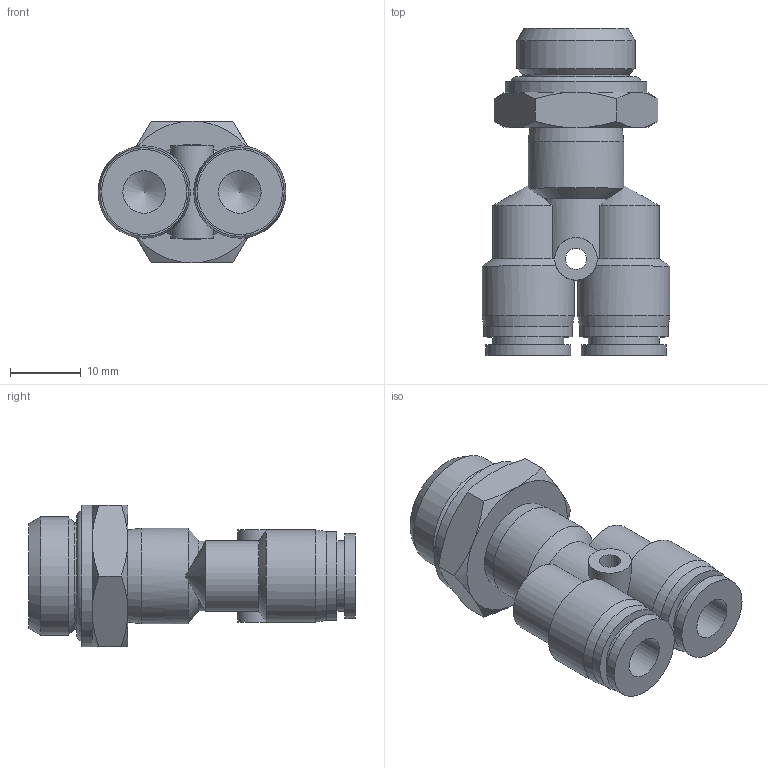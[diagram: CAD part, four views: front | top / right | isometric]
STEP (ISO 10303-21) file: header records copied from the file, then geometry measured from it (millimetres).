
FILE_DESCRIPTION(/* description */ (''),/* implementation_level */ '2;1');
FILE_NAME(/* name */ 'S:\_Tecnico\ArchivioUT\_Disegni3D ingombri\DISEGNI 3D per ingombri\RP\RP 74\RP743806.stp',/* time_stamp */ '2020-02-05T15:16:36+01:00',/* author */ ('UfficioTecnico'),/* organization */ (''),/* preprocessor_version */ 'ST-DEVELOPER v18',/* originating_system */ 'Autodesk Inventor 2020',/* authorisation */ '');
FILE_SCHEMA (('AUTOMOTIVE_DESIGN { 1 0 10303 214 3 1 1 }'));
Length unit declared in the file: millimetre
Products named in the file (1): RP743806
Bounding box: 26.5 x 46.11 x 20 mm (x, y, z)
Volume: 7577.2 mm3; surface area: 5821.3 mm2
Topology: 2 solids, 2 shells, 80 faces, 214 edges, 143 vertices
Faces by surface type: cone 27, cylinder 26, plane 25, torus 2
Full cylindrical faces by diameter (mm): 3 x1, 4.5 x1, 6 x3, 10 x2, 11.5 x1, 12 x2, 12.5 x2, 13 x2, 13.5 x1, 15 x2, 16.662 x1, 20 x1
Entity records: 2712 total; most frequent: CARTESIAN_POINT 689, DIRECTION 431, ORIENTED_EDGE 420, EDGE_CURVE 210, AXIS2_PLACEMENT_3D 192, VERTEX_POINT 143, CIRCLE 111, EDGE_LOOP 93
